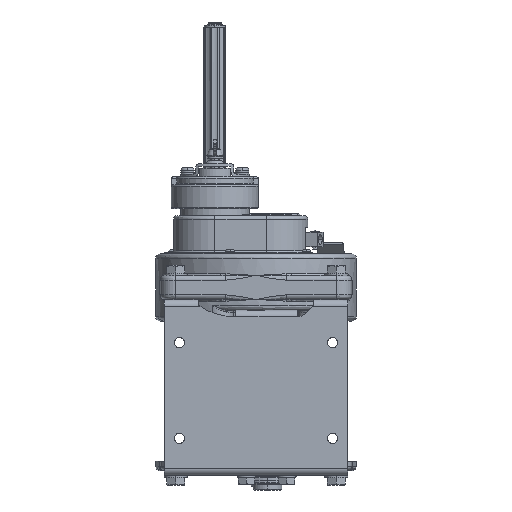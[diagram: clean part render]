
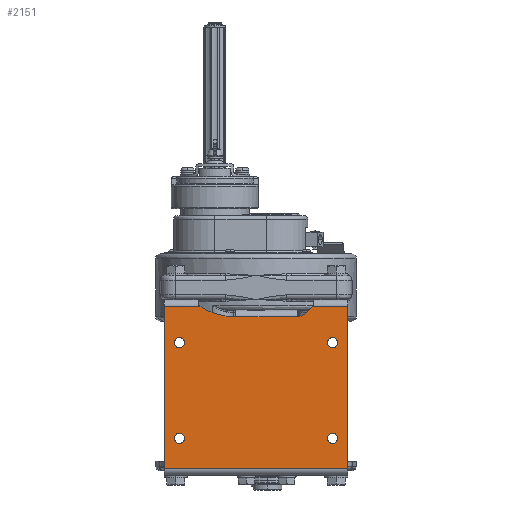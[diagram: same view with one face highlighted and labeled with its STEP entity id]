
A CAD part, front view. The second image highlights one B-rep face of the part: STEP entity #2151.
In plain terms, the highlighted planar face has unit normal (0, -1, 0).
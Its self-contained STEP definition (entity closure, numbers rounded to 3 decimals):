
#2151=ADVANCED_FACE('',(#23500,#23501,#23502,#23503,#23504),#23499,.T.);
#23499=PLANE('',#46022);
#23500=FACE_OUTER_BOUND('',#46023,.T.);
#23501=FACE_BOUND('',#46024,.T.);
#23502=FACE_BOUND('',#46025,.T.);
#23503=FACE_BOUND('',#46026,.T.);
#23504=FACE_BOUND('',#46027,.T.);
#46019=CARTESIAN_POINT('',(11.,-36.383,-212.1));
#46020=DIRECTION('',(0.,-1.,0.));
#46021=DIRECTION('',(0.,0.,1.));
#46022=AXIS2_PLACEMENT_3D('',#46019,#46020,#46021);
#46023=EDGE_LOOP('',(#64008,#64009,#64010,#64011,#64012,#64013,#64014,#64015,#64016,#64017));
#46024=EDGE_LOOP('',(#64018,#64019));
#46025=EDGE_LOOP('',(#64020,#64021));
#46026=EDGE_LOOP('',(#64022,#64023));
#46027=EDGE_LOOP('',(#64024,#64025));
#64008=ORIENTED_EDGE('',*,*,#74184,.T.);
#64009=ORIENTED_EDGE('',*,*,#74188,.T.);
#64010=ORIENTED_EDGE('',*,*,#74867,.T.);
#64011=ORIENTED_EDGE('',*,*,#73979,.T.);
#64012=ORIENTED_EDGE('',*,*,#74868,.T.);
#64013=ORIENTED_EDGE('',*,*,#74869,.T.);
#64014=ORIENTED_EDGE('',*,*,#74865,.T.);
#64015=ORIENTED_EDGE('',*,*,#74870,.F.);
#64016=ORIENTED_EDGE('',*,*,#74854,.F.);
#64017=ORIENTED_EDGE('',*,*,#74871,.T.);
#64018=ORIENTED_EDGE('',*,*,#74872,.F.);
#64019=ORIENTED_EDGE('',*,*,#74873,.F.);
#64020=ORIENTED_EDGE('',*,*,#74874,.F.);
#64021=ORIENTED_EDGE('',*,*,#74875,.F.);
#64022=ORIENTED_EDGE('',*,*,#74876,.F.);
#64023=ORIENTED_EDGE('',*,*,#74877,.F.);
#64024=ORIENTED_EDGE('',*,*,#74878,.F.);
#64025=ORIENTED_EDGE('',*,*,#74879,.F.);
#73979=EDGE_CURVE('',#109112,#109154,#109161,.T.);
#74184=EDGE_CURVE('',#110532,#110525,#110533,.T.);
#74188=EDGE_CURVE('',#110525,#110553,#110560,.T.);
#74854=EDGE_CURVE('',#114991,#114992,#114993,.T.);
#74865=EDGE_CURVE('',#115067,#115060,#115068,.T.);
#74867=EDGE_CURVE('',#110553,#109112,#115080,.T.);
#74868=EDGE_CURVE('',#109154,#115086,#115087,.T.);
#74869=EDGE_CURVE('',#115086,#115067,#115093,.T.);
#74870=EDGE_CURVE('',#114992,#115060,#115099,.T.);
#74871=EDGE_CURVE('',#114991,#110532,#115105,.T.);
#74872=EDGE_CURVE('',#115111,#115112,#115113,.T.);
#74873=EDGE_CURVE('',#115112,#115111,#115119,.T.);
#74874=EDGE_CURVE('',#115125,#115126,#115127,.T.);
#74875=EDGE_CURVE('',#115126,#115125,#115133,.T.);
#74876=EDGE_CURVE('',#115139,#115140,#115141,.T.);
#74877=EDGE_CURVE('',#115140,#115139,#115147,.T.);
#74878=EDGE_CURVE('',#115153,#115154,#115155,.T.);
#74879=EDGE_CURVE('',#115154,#115153,#115161,.T.);
#109112=VERTEX_POINT('',#146946);
#109154=VERTEX_POINT('',#146985);
#109161=LINE('',#147002,#147003);
#110525=VERTEX_POINT('',#148271);
#110532=VERTEX_POINT('',#148276);
#110533=LINE('',#148277,#148278);
#110553=VERTEX_POINT('',#148290);
#110560=CIRCLE('',#148297,30.);
#114991=VERTEX_POINT('',#151700);
#114992=VERTEX_POINT('',#151701);
#114993=LINE('',#151702,#151703);
#115060=VERTEX_POINT('',#151744);
#115067=VERTEX_POINT('',#151749);
#115068=LINE('',#151750,#151751);
#115080=CIRCLE('',#151760,2.);
#115086=VERTEX_POINT('',#151761);
#115087=CIRCLE('',#151765,2.);
#115093=CIRCLE('',#151769,70.);
#115099=LINE('',#151770,#151771);
#115105=LINE('',#151773,#151774);
#115111=VERTEX_POINT('',#151776);
#115112=VERTEX_POINT('',#151777);
#115113=CIRCLE('',#151781,5.25);
#115119=CIRCLE('',#151785,5.25);
#115125=VERTEX_POINT('',#151786);
#115126=VERTEX_POINT('',#151787);
#115127=CIRCLE('',#151791,5.25);
#115133=CIRCLE('',#151795,5.25);
#115139=VERTEX_POINT('',#151796);
#115140=VERTEX_POINT('',#151797);
#115141=CIRCLE('',#151801,5.25);
#115147=CIRCLE('',#151805,5.25);
#115153=VERTEX_POINT('',#151806);
#115154=VERTEX_POINT('',#151807);
#115155=CIRCLE('',#151811,5.25);
#115161=CIRCLE('',#151815,5.25);
#146946=CARTESIAN_POINT('',(-50.,-36.383,-43.4));
#146985=CARTESIAN_POINT('',(-118.,-36.383,-43.4));
#147002=CARTESIAN_POINT('',(-50.,-36.383,-43.4));
#147003=VECTOR('',#147004,68.);
#147004=DIRECTION('',(-1.,0.,0.));
#148271=CARTESIAN_POINT('',(-35.917,-36.383,-32.4));
#148276=CARTESIAN_POINT('',(1.,-36.383,-32.4));
#148277=CARTESIAN_POINT('',(1.,-36.383,-32.4));
#148278=VECTOR('',#148279,36.917);
#148279=DIRECTION('',(-1.,0.,0.));
#148290=CARTESIAN_POINT('',(-49.234,-36.383,-43.247));
#148294=CARTESIAN_POINT('',(-60.73,-36.383,-15.537));
#148295=DIRECTION('',(0.,1.,0.));
#148296=DIRECTION('',(0.,0.,-1.));
#148297=AXIS2_PLACEMENT_3D('',#148294,#148295,#148296);
#151700=CARTESIAN_POINT('',(1.,-36.383,-202.1));
#151701=CARTESIAN_POINT('',(-191.,-36.383,-202.1));
#151702=CARTESIAN_POINT('',(1.,-36.383,-202.1));
#151703=VECTOR('',#151704,192.);
#151704=DIRECTION('',(-1.,0.,0.));
#151744=CARTESIAN_POINT('',(-191.,-36.383,-32.4));
#151749=CARTESIAN_POINT('',(-153.59,-36.383,-32.4));
#151750=CARTESIAN_POINT('',(-153.59,-36.383,-32.4));
#151751=VECTOR('',#151752,37.41);
#151752=DIRECTION('',(-1.,0.,0.));
#151757=CARTESIAN_POINT('',(-50.,-36.383,-41.4));
#151758=DIRECTION('',(0.,1.,0.));
#151759=DIRECTION('',(0.,0.,-1.));
#151760=AXIS2_PLACEMENT_3D('',#151757,#151758,#151759);
#151761=CARTESIAN_POINT('',(-118.063,-36.383,-43.399));
#151762=CARTESIAN_POINT('',(-118.,-36.383,-41.4));
#151763=DIRECTION('',(0.,1.,0.));
#151764=DIRECTION('',(0.,0.,-1.));
#151765=AXIS2_PLACEMENT_3D('',#151762,#151763,#151764);
#151766=CARTESIAN_POINT('',(-115.868,-36.383,26.567));
#151767=DIRECTION('',(0.,1.,0.));
#151768=DIRECTION('',(0.,0.,-1.));
#151769=AXIS2_PLACEMENT_3D('',#151766,#151767,#151768);
#151770=CARTESIAN_POINT('',(-191.,-36.383,-202.1));
#151771=VECTOR('',#151772,169.7);
#151772=DIRECTION('',(0.,0.,1.));
#151773=CARTESIAN_POINT('',(1.,-36.383,-202.1));
#151774=VECTOR('',#151775,169.7);
#151775=DIRECTION('',(0.,0.,1.));
#151776=CARTESIAN_POINT('',(-15.,-36.383,-75.65));
#151777=CARTESIAN_POINT('',(-15.,-36.383,-65.15));
#151778=CARTESIAN_POINT('',(-15.,-36.383,-70.4));
#151779=DIRECTION('',(0.,-1.,0.));
#151780=DIRECTION('',(0.,0.,1.));
#151781=AXIS2_PLACEMENT_3D('',#151778,#151779,#151780);
#151782=CARTESIAN_POINT('',(-15.,-36.383,-70.4));
#151783=DIRECTION('',(0.,-1.,0.));
#151784=DIRECTION('',(0.,0.,1.));
#151785=AXIS2_PLACEMENT_3D('',#151782,#151783,#151784);
#151786=CARTESIAN_POINT('',(-175.,-36.383,-75.65));
#151787=CARTESIAN_POINT('',(-175.,-36.383,-65.15));
#151788=CARTESIAN_POINT('',(-175.,-36.383,-70.4));
#151789=DIRECTION('',(0.,-1.,0.));
#151790=DIRECTION('',(0.,0.,1.));
#151791=AXIS2_PLACEMENT_3D('',#151788,#151789,#151790);
#151792=CARTESIAN_POINT('',(-175.,-36.383,-70.4));
#151793=DIRECTION('',(0.,-1.,0.));
#151794=DIRECTION('',(0.,0.,1.));
#151795=AXIS2_PLACEMENT_3D('',#151792,#151793,#151794);
#151796=CARTESIAN_POINT('',(-175.,-36.383,-175.65));
#151797=CARTESIAN_POINT('',(-175.,-36.383,-165.15));
#151798=CARTESIAN_POINT('',(-175.,-36.383,-170.4));
#151799=DIRECTION('',(0.,-1.,0.));
#151800=DIRECTION('',(0.,0.,1.));
#151801=AXIS2_PLACEMENT_3D('',#151798,#151799,#151800);
#151802=CARTESIAN_POINT('',(-175.,-36.383,-170.4));
#151803=DIRECTION('',(0.,-1.,0.));
#151804=DIRECTION('',(0.,0.,1.));
#151805=AXIS2_PLACEMENT_3D('',#151802,#151803,#151804);
#151806=CARTESIAN_POINT('',(-15.,-36.383,-175.65));
#151807=CARTESIAN_POINT('',(-15.,-36.383,-165.15));
#151808=CARTESIAN_POINT('',(-15.,-36.383,-170.4));
#151809=DIRECTION('',(0.,-1.,0.));
#151810=DIRECTION('',(0.,0.,1.));
#151811=AXIS2_PLACEMENT_3D('',#151808,#151809,#151810);
#151812=CARTESIAN_POINT('',(-15.,-36.383,-170.4));
#151813=DIRECTION('',(0.,-1.,0.));
#151814=DIRECTION('',(0.,0.,1.));
#151815=AXIS2_PLACEMENT_3D('',#151812,#151813,#151814);
